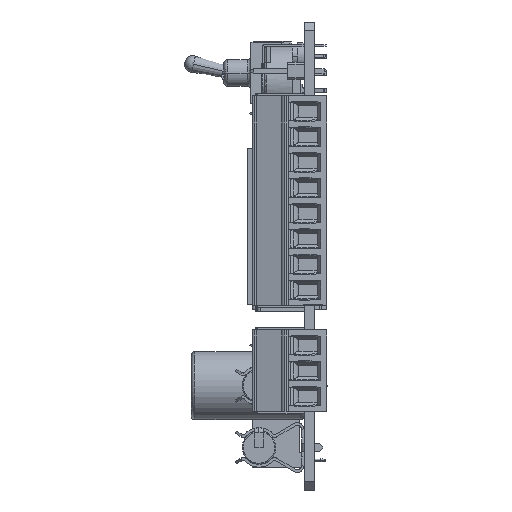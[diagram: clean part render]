
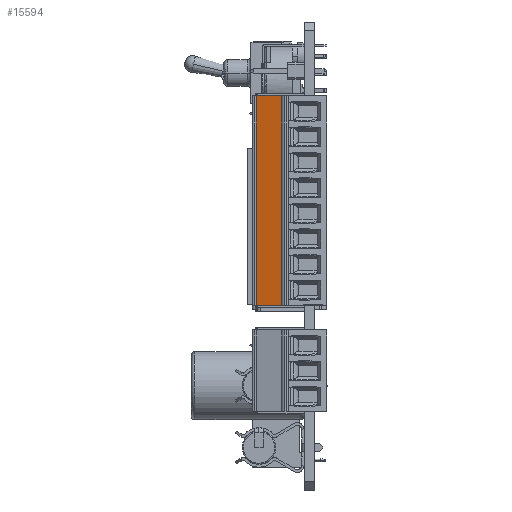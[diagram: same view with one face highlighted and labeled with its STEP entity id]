
A CAD part, left-side view. The second image highlights one B-rep face of the part: STEP entity #15594.
In plain terms, the highlighted planar face has unit normal (-0.966, 0.259, 0) as drawn and (0.966, 0.259, 0) by its records, which use the part's own axes.
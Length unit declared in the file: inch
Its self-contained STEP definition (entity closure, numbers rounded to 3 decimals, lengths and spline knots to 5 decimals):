
#2183 = CARTESIAN_POINT ( 'NONE',  ( 1.96894, 1.42056, 1.83405 ) ) ;
#7890 = VERTEX_POINT ( 'NONE', #2183 ) ;
#12332 = PLANE ( 'NONE',  #44896 ) ;
#12348 = DIRECTION ( 'NONE',  ( -0.259, 0.966, 0. ) ) ;
#12533 = VECTOR ( 'NONE', #35973, 39.37008 ) ;
#12907 = ORIENTED_EDGE ( 'NONE', *, *, #105338, .T. ) ;
#14831 = ORIENTED_EDGE ( 'NONE', *, *, #146252, .T. ) ;
#15594 = ADVANCED_FACE ( 'NONE', ( #72783 ), #12332, .T. ) ;
#21843 = VERTEX_POINT ( 'NONE', #68814 ) ;
#24815 = CARTESIAN_POINT ( 'NONE',  ( 1.96894, 1.42056, 1.83405 ) ) ;
#25923 = LINE ( 'NONE', #55285, #109872 ) ;
#27728 = LINE ( 'NONE', #52517, #58102 ) ;
#28631 = ORIENTED_EDGE ( 'NONE', *, *, #109217, .T. ) ;
#32313 = EDGE_LOOP ( 'NONE', ( #28631, #12907, #14831, #141458 ) ) ;
#35500 = CARTESIAN_POINT ( 'NONE',  ( 1.96894, 1.42056, 2.3624 ) ) ;
#35973 = DIRECTION ( 'NONE',  ( 0., 0., -1. ) ) ;
#42876 = LINE ( 'NONE', #35500, #12533 ) ;
#44896 = AXIS2_PLACEMENT_3D ( 'NONE', #116226, #47739, #127691 ) ;
#46378 = LINE ( 'NONE', #24815, #107186 ) ;
#47739 = DIRECTION ( 'NONE',  ( 0.966, 0.259, 0. ) ) ;
#52517 = CARTESIAN_POINT ( 'NONE',  ( 1.96894, 1.42056, 3.06515 ) ) ;
#55285 = CARTESIAN_POINT ( 'NONE',  ( 1.92885, 1.57017, 2.3624 ) ) ;
#58102 = VECTOR ( 'NONE', #143897, 39.37008 ) ;
#60091 = VERTEX_POINT ( 'NONE', #69987 ) ;
#61621 = EDGE_CURVE ( 'NONE', #82387, #60091, #27728, .T. ) ;
#68814 = CARTESIAN_POINT ( 'NONE',  ( 1.92885, 1.57017, 1.83405 ) ) ;
#69987 = CARTESIAN_POINT ( 'NONE',  ( 1.92885, 1.57017, 3.06515 ) ) ;
#70635 = CARTESIAN_POINT ( 'NONE',  ( 1.96894, 1.42056, 3.06515 ) ) ;
#72783 = FACE_OUTER_BOUND ( 'NONE', #32313, .T. ) ;
#82387 = VERTEX_POINT ( 'NONE', #70635 ) ;
#101250 = DIRECTION ( 'NONE',  ( 0., 0., 1. ) ) ;
#105338 = EDGE_CURVE ( 'NONE', #7890, #21843, #46378, .T. ) ;
#107186 = VECTOR ( 'NONE', #12348, 39.37008 ) ;
#109217 = EDGE_CURVE ( 'NONE', #82387, #7890, #42876, .T. ) ;
#109872 = VECTOR ( 'NONE', #101250, 39.37008 ) ;
#116226 = CARTESIAN_POINT ( 'NONE',  ( 1.96894, 1.42056, 2.3624 ) ) ;
#127691 = DIRECTION ( 'NONE',  ( -0.259, 0.966, 0. ) ) ;
#141458 = ORIENTED_EDGE ( 'NONE', *, *, #61621, .F. ) ;
#143897 = DIRECTION ( 'NONE',  ( -0.259, 0.966, 0. ) ) ;
#146252 = EDGE_CURVE ( 'NONE', #21843, #60091, #25923, .T. ) ;
